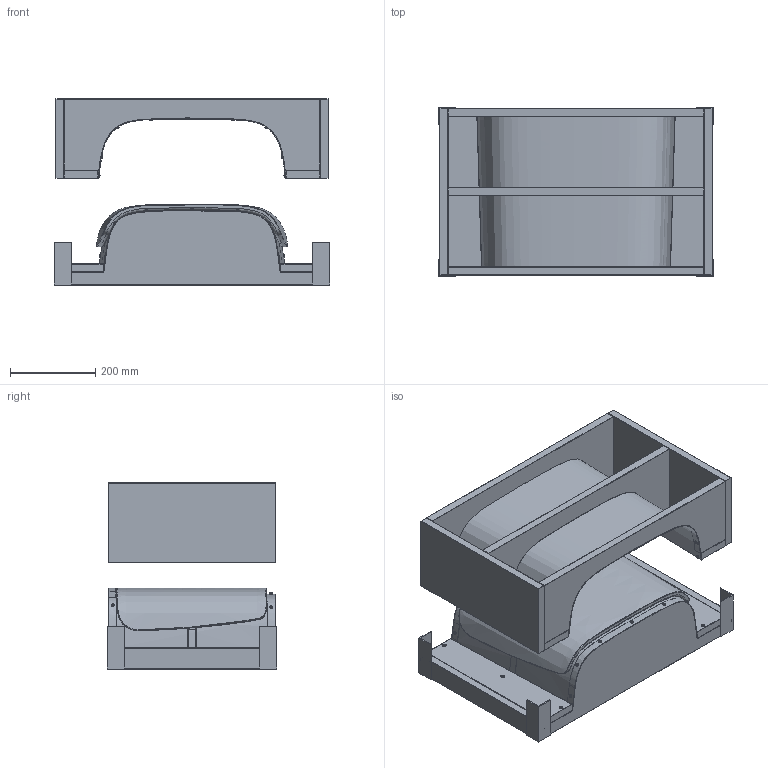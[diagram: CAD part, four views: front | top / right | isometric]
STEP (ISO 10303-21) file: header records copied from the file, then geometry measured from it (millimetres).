
FILE_DESCRIPTION(/* description */ (''),/* implementation_level */ '2;1');
FILE_NAME(/* name */ 'mould',/* time_stamp */ '2019-10-29T11:16:47+01:00',/* author */ (''),/* organization */ (''),/* preprocessor_version */ 'ST-DEVELOPER v15',/* originating_system */ '',/* authorisation */ '');
FILE_SCHEMA (('AUTOMOTIVE_DESIGN'));
Products named in the file (1): Document
Bounding box: 644 x 396 x 435.64 mm (x, y, z)
Volume: 16354749.8 mm3; surface area: 3144635.8 mm2
Topology: 55 solids, 55 shells, 1675 faces, 4045 edges, 2270 vertices
Faces by surface type: bspline 1271, plane 404
Entity records: 195412 total; most frequent: CARTESIAN_POINT 171996, ORIENTED_EDGE 7538, EDGE_CURVE 3769, B_SPLINE_CURVE_WITH_KNOTS 2891, VERTEX_POINT 2270, EDGE_LOOP 1741, ADVANCED_FACE 1675, FACE_OUTER_BOUND 1675
